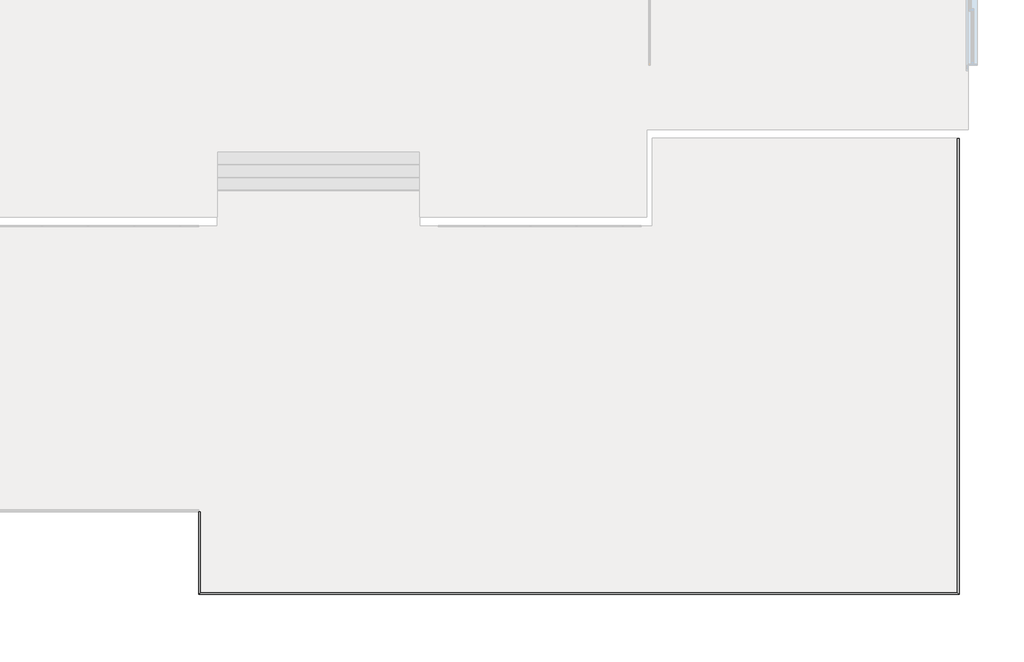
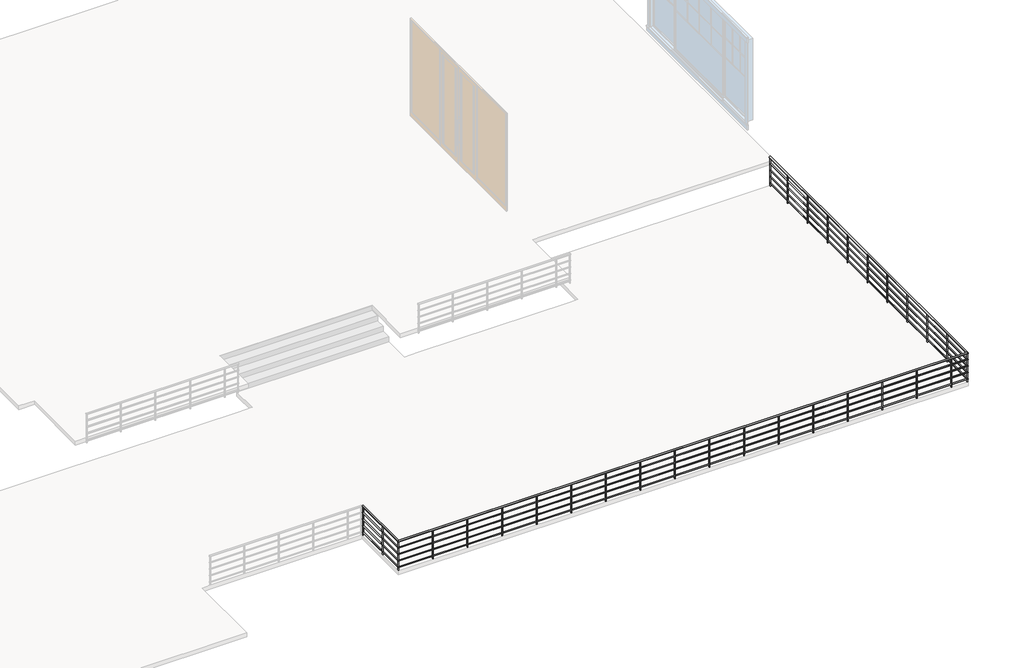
# One storey, part 2 of 5: 1 railing.
"""IFC4 building model written with IfcOpenShell, lengths in millimetres."""

from ifc_helpers import new_model, si_unit, point, frame, frame_2d, origin, origin_with_axes, place, context, project, spatial, circle_curve, ellipse_curve, trimmed, segment, composite_curve, outline, extrude, element, save
from ifc_brep_helpers import plane_surface, cylinder_surface, advanced_brep

model = new_model("IFC4")

# Units and contexts
model_context = context("Model", 3, world=origin())
ifc_project = project(units=[si_unit("LENGTHUNIT", "METRE", prefix="MILLI")], contexts=[model_context])

# Site, building, storey
site = spatial("IfcSite", under=ifc_project)
building = spatial("IfcBuilding", under=site)
storey = spatial("IfcBuildingStorey", under=building, Name="标高 1", Elevation=0.0)

# Railing
placement = place(None, origin())
element("IfcRailing", 1, ObjectType="900mm 圆管", at=placement, inside=storey, context=model_context, shape_type="SolidModel", body=[
    advanced_brep(
    [(1736.7377372, -5655.8341351, 880.0), (1776.7377372, -5655.8341351, 880.0), (1736.7377372, -7455.8341351, 880.0), (1776.7377372, -7415.8341351, 880.0), (18236.7377372, -7455.8341351, 880.0), (18196.7377372, -7415.8341351, 880.0), (18236.7377372, 2444.1658649, 880.0), (18196.7377372, 2444.1658649, 880.0)],
    [
        (0, 1, circle_curve(frame((1756.7377372, -5655.8341351, 880.0), z_axis=(0.0, 1.0, 0.0), x_axis=(1.0, 0.0, 0.0)), 20.0)),
        (1, 0, circle_curve(frame((1756.7377372, -5655.8341351, 880.0), z_axis=(0.0, 1.0, 0.0), x_axis=(1.0, 0.0, 0.0)), 20.0)),
        (0, 2),
        (2, 3, ellipse_curve(frame((1756.7377372, -7435.8341351, 880.0), z_axis=(-0.7071067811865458, 0.7071067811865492, 0.0), x_axis=(0.7071067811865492, 0.7071067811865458, 0.0)), 28.2842712, 20.0)),
        (3, 1),
        (3, 2, ellipse_curve(frame((1756.7377372, -7435.8341351, 880.0), z_axis=(-0.7071067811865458, 0.7071067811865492, 0.0), x_axis=(0.7071067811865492, 0.7071067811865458, 0.0)), 28.2842712, 20.0)),
        (2, 4),
        (4, 5, ellipse_curve(frame((18216.7377372, -7435.8341351, 880.0), z_axis=(-0.7071067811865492, -0.7071067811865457, 0.0), x_axis=(-0.707106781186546, 0.7071067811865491, 0.0)), 28.2842712, 20.0)),
        (5, 3),
        (5, 4, ellipse_curve(frame((18216.7377372, -7435.8341351, 880.0), z_axis=(-0.7071067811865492, -0.7071067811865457, 0.0), x_axis=(-0.707106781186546, 0.7071067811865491, 0.0)), 28.2842712, 20.0)),
        (6, 7, circle_curve(frame((18216.7377372, 2444.1658649, 880.0), z_axis=(0.0, 1.0, 0.0), x_axis=(-1.0, 0.0, 0.0)), 20.0)),
        (7, 6, circle_curve(frame((18216.7377372, 2444.1658649, 880.0), z_axis=(0.0, 1.0, 0.0), x_axis=(-1.0, 0.0, 0.0)), 20.0)),
        (4, 6),
        (7, 5),
    ],
    [
        plane_surface(frame((1756.7377372, -5655.8341351, 900.0), z_axis=(0.0, 1.0, 0.0), x_axis=(0.0, 0.0, -1.0))),
        cylinder_surface(frame((1756.7377372, -5655.8341351, 880.0), z_axis=(0.0, 1.0, 0.0), x_axis=(1.0, 0.0, 0.0)), 20.0),
        cylinder_surface(frame((1756.7377372, -7435.8341351, 880.0), z_axis=(-1.0, 0.0, 0.0), x_axis=(0.0, 1.0, 0.0)), 20.0),
        plane_surface(frame((18216.7377372, 2444.1658649, 900.0), z_axis=(0.0, 1.0, 0.0), x_axis=(0.0, 0.0, 1.0))),
        cylinder_surface(frame((18216.7377372, -7435.8341351, 880.0), z_axis=(0.0, -1.0, 0.0), x_axis=(-1.0, 0.0, 0.0)), 20.0),
    ],
    [
        (0, [[1, 2]]),
        (1, [[-1, 3, 4, 5]]),
        (1, [[-2, -5, 6, -3]]),
        (2, [[-4, 7, 8, 9]]),
        (2, [[-6, -9, 10, -7]]),
        (3, [[11, 12]]),
        (4, [[-8, 13, -12, 14]]),
        (4, [[-10, -14, -11, -13]]),
    ],
),
    advanced_brep(
    [(1771.7377372, -5655.8341351, 685.0), (1741.7377372, -5655.8341351, 685.0), (1771.7377372, -7420.8341351, 685.0), (1741.7377372, -7450.8341351, 685.0), (18201.7377372, -7420.8341351, 685.0), (18231.7377372, -7450.8341351, 685.0), (18201.7377372, 2444.1658649, 685.0), (18231.7377372, 2444.1658649, 685.0)],
    [
        (0, 1, circle_curve(frame((1756.7377372, -5655.8341351, 685.0), z_axis=(0.0, 1.0, 0.0), x_axis=(-1.0, 0.0, 0.0)), 15.0)),
        (1, 0, circle_curve(frame((1756.7377372, -5655.8341351, 685.0), z_axis=(0.0, 1.0, 0.0), x_axis=(-1.0, 0.0, 0.0)), 15.0)),
        (0, 2),
        (2, 3, ellipse_curve(frame((1756.7377372, -7435.8341351, 685.0), z_axis=(-0.7071067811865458, 0.7071067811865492, 0.0), x_axis=(0.7071067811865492, 0.7071067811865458, 0.0)), 21.2132034, 15.0)),
        (3, 1),
        (3, 2, ellipse_curve(frame((1756.7377372, -7435.8341351, 685.0), z_axis=(-0.7071067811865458, 0.7071067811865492, 0.0), x_axis=(0.7071067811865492, 0.7071067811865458, 0.0)), 21.2132034, 15.0)),
        (2, 4),
        (4, 5, ellipse_curve(frame((18216.7377372, -7435.8341351, 685.0), z_axis=(-0.7071067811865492, -0.7071067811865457, 0.0), x_axis=(-0.707106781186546, 0.7071067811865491, 0.0)), 21.2132034, 15.0)),
        (5, 3),
        (5, 4, ellipse_curve(frame((18216.7377372, -7435.8341351, 685.0), z_axis=(-0.7071067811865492, -0.7071067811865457, 0.0), x_axis=(-0.707106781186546, 0.7071067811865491, 0.0)), 21.2132034, 15.0)),
        (6, 7, circle_curve(frame((18216.7377372, 2444.1658649, 685.0), z_axis=(0.0, 1.0, 0.0), x_axis=(1.0, 0.0, 0.0)), 15.0)),
        (7, 6, circle_curve(frame((18216.7377372, 2444.1658649, 685.0), z_axis=(0.0, 1.0, 0.0), x_axis=(1.0, 0.0, 0.0)), 15.0)),
        (4, 6),
        (7, 5),
    ],
    [
        plane_surface(frame((1756.7377372, -5655.8341351, 700.0), z_axis=(0.0, 1.0, 0.0), x_axis=(0.0, 0.0, -1.0))),
        cylinder_surface(frame((1756.7377372, -5655.8341351, 685.0), z_axis=(0.0, 1.0, 0.0), x_axis=(-1.0, 0.0, 0.0)), 15.0),
        cylinder_surface(frame((1756.7377372, -7435.8341351, 685.0), z_axis=(-1.0, 0.0, 0.0), x_axis=(0.0, -1.0, 0.0)), 15.0),
        plane_surface(frame((18216.7377372, 2444.1658649, 700.0), z_axis=(0.0, 1.0, 0.0), x_axis=(0.0, 0.0, 1.0))),
        cylinder_surface(frame((18216.7377372, -7435.8341351, 685.0), z_axis=(0.0, -1.0, 0.0), x_axis=(1.0, 0.0, 0.0)), 15.0),
    ],
    [
        (0, [[1, 2]]),
        (1, [[-1, 3, 4, 5]]),
        (1, [[-2, -5, 6, -3]]),
        (2, [[-4, 7, 8, 9]]),
        (2, [[-6, -9, 10, -7]]),
        (3, [[11, 12]]),
        (4, [[-8, 13, -12, 14]]),
        (4, [[-10, -14, -11, -13]]),
    ],
),
    advanced_brep(
    [(1771.7377372, -5655.8341351, 485.0), (1741.7377372, -5655.8341351, 485.0), (1771.7377372, -7420.8341351, 485.0), (1741.7377372, -7450.8341351, 485.0), (18201.7377372, -7420.8341351, 485.0), (18231.7377372, -7450.8341351, 485.0), (18201.7377372, 2444.1658649, 485.0), (18231.7377372, 2444.1658649, 485.0)],
    [
        (0, 1, circle_curve(frame((1756.7377372, -5655.8341351, 485.0), z_axis=(0.0, 1.0, 0.0), x_axis=(-1.0, 0.0, 0.0)), 15.0)),
        (1, 0, circle_curve(frame((1756.7377372, -5655.8341351, 485.0), z_axis=(0.0, 1.0, 0.0), x_axis=(-1.0, 0.0, 0.0)), 15.0)),
        (0, 2),
        (2, 3, ellipse_curve(frame((1756.7377372, -7435.8341351, 485.0), z_axis=(-0.7071067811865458, 0.7071067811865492, 0.0), x_axis=(0.7071067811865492, 0.7071067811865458, 0.0)), 21.2132034, 15.0)),
        (3, 1),
        (3, 2, ellipse_curve(frame((1756.7377372, -7435.8341351, 485.0), z_axis=(-0.7071067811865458, 0.7071067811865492, 0.0), x_axis=(0.7071067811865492, 0.7071067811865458, 0.0)), 21.2132034, 15.0)),
        (2, 4),
        (4, 5, ellipse_curve(frame((18216.7377372, -7435.8341351, 485.0), z_axis=(-0.7071067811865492, -0.7071067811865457, 0.0), x_axis=(-0.707106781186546, 0.7071067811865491, 0.0)), 21.2132034, 15.0)),
        (5, 3),
        (5, 4, ellipse_curve(frame((18216.7377372, -7435.8341351, 485.0), z_axis=(-0.7071067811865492, -0.7071067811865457, 0.0), x_axis=(-0.707106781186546, 0.7071067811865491, 0.0)), 21.2132034, 15.0)),
        (6, 7, circle_curve(frame((18216.7377372, 2444.1658649, 485.0), z_axis=(0.0, 1.0, 0.0), x_axis=(1.0, 0.0, 0.0)), 15.0)),
        (7, 6, circle_curve(frame((18216.7377372, 2444.1658649, 485.0), z_axis=(0.0, 1.0, 0.0), x_axis=(1.0, 0.0, 0.0)), 15.0)),
        (4, 6),
        (7, 5),
    ],
    [
        plane_surface(frame((1756.7377372, -5655.8341351, 500.0), z_axis=(0.0, 1.0, 0.0), x_axis=(0.0, 0.0, -1.0))),
        cylinder_surface(frame((1756.7377372, -5655.8341351, 485.0), z_axis=(0.0, 1.0, 0.0), x_axis=(-1.0, 0.0, 0.0)), 15.0),
        cylinder_surface(frame((1756.7377372, -7435.8341351, 485.0), z_axis=(-1.0, 0.0, 0.0), x_axis=(0.0, -1.0, 0.0)), 15.0),
        plane_surface(frame((18216.7377372, 2444.1658649, 500.0), z_axis=(0.0, 1.0, 0.0), x_axis=(0.0, 0.0, 1.0))),
        cylinder_surface(frame((18216.7377372, -7435.8341351, 485.0), z_axis=(0.0, -1.0, 0.0), x_axis=(1.0, 0.0, 0.0)), 15.0),
    ],
    [
        (0, [[1, 2]]),
        (1, [[-1, 3, 4, 5]]),
        (1, [[-2, -5, 6, -3]]),
        (2, [[-4, 7, 8, 9]]),
        (2, [[-6, -9, 10, -7]]),
        (3, [[11, 12]]),
        (4, [[-8, 13, -12, 14]]),
        (4, [[-10, -14, -11, -13]]),
    ],
),
    advanced_brep(
    [(1771.7377372, -5655.8341351, 285.0), (1741.7377372, -5655.8341351, 285.0), (1771.7377372, -7420.8341351, 285.0), (1741.7377372, -7450.8341351, 285.0), (18201.7377372, -7420.8341351, 285.0), (18231.7377372, -7450.8341351, 285.0), (18201.7377372, 2444.1658649, 285.0), (18231.7377372, 2444.1658649, 285.0)],
    [
        (0, 1, circle_curve(frame((1756.7377372, -5655.8341351, 285.0), z_axis=(0.0, 1.0, 0.0), x_axis=(-1.0, 0.0, 0.0)), 15.0)),
        (1, 0, circle_curve(frame((1756.7377372, -5655.8341351, 285.0), z_axis=(0.0, 1.0, 0.0), x_axis=(-1.0, 0.0, 0.0)), 15.0)),
        (0, 2),
        (2, 3, ellipse_curve(frame((1756.7377372, -7435.8341351, 285.0), z_axis=(-0.7071067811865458, 0.7071067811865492, 0.0), x_axis=(0.7071067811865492, 0.7071067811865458, 0.0)), 21.2132034, 15.0)),
        (3, 1),
        (3, 2, ellipse_curve(frame((1756.7377372, -7435.8341351, 285.0), z_axis=(-0.7071067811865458, 0.7071067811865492, 0.0), x_axis=(0.7071067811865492, 0.7071067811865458, 0.0)), 21.2132034, 15.0)),
        (2, 4),
        (4, 5, ellipse_curve(frame((18216.7377372, -7435.8341351, 285.0), z_axis=(-0.7071067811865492, -0.7071067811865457, 0.0), x_axis=(-0.707106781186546, 0.7071067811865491, 0.0)), 21.2132034, 15.0)),
        (5, 3),
        (5, 4, ellipse_curve(frame((18216.7377372, -7435.8341351, 285.0), z_axis=(-0.7071067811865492, -0.7071067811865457, 0.0), x_axis=(-0.707106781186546, 0.7071067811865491, 0.0)), 21.2132034, 15.0)),
        (6, 7, circle_curve(frame((18216.7377372, 2444.1658649, 285.0), z_axis=(0.0, 1.0, 0.0), x_axis=(1.0, 0.0, 0.0)), 15.0)),
        (7, 6, circle_curve(frame((18216.7377372, 2444.1658649, 285.0), z_axis=(0.0, 1.0, 0.0), x_axis=(1.0, 0.0, 0.0)), 15.0)),
        (4, 6),
        (7, 5),
    ],
    [
        plane_surface(frame((1756.7377372, -5655.8341351, 300.0), z_axis=(0.0, 1.0, 0.0), x_axis=(0.0, 0.0, -1.0))),
        cylinder_surface(frame((1756.7377372, -5655.8341351, 285.0), z_axis=(0.0, 1.0, 0.0), x_axis=(-1.0, 0.0, 0.0)), 15.0),
        cylinder_surface(frame((1756.7377372, -7435.8341351, 285.0), z_axis=(-1.0, 0.0, 0.0), x_axis=(0.0, -1.0, 0.0)), 15.0),
        plane_surface(frame((18216.7377372, 2444.1658649, 300.0), z_axis=(0.0, 1.0, 0.0), x_axis=(0.0, 0.0, 1.0))),
        cylinder_surface(frame((18216.7377372, -7435.8341351, 285.0), z_axis=(0.0, -1.0, 0.0), x_axis=(1.0, 0.0, 0.0)), 15.0),
    ],
    [
        (0, [[1, 2]]),
        (1, [[-1, 3, 4, 5]]),
        (1, [[-2, -5, 6, -3]]),
        (2, [[-4, 7, 8, 9]]),
        (2, [[-6, -9, 10, -7]]),
        (3, [[11, 12]]),
        (4, [[-8, 13, -12, 14]]),
        (4, [[-10, -14, -11, -13]]),
    ],
),
    advanced_brep(
    [(1771.7377372, -5655.8341351, 85.0), (1741.7377372, -5655.8341351, 85.0), (1771.7377372, -7420.8341351, 85.0), (1741.7377372, -7450.8341351, 85.0), (18201.7377372, -7420.8341351, 85.0), (18231.7377372, -7450.8341351, 85.0), (18201.7377372, 2444.1658649, 85.0), (18231.7377372, 2444.1658649, 85.0)],
    [
        (0, 1, circle_curve(frame((1756.7377372, -5655.8341351, 85.0), z_axis=(0.0, 1.0, 0.0), x_axis=(-1.0, 0.0, 0.0)), 15.0)),
        (1, 0, circle_curve(frame((1756.7377372, -5655.8341351, 85.0), z_axis=(0.0, 1.0, 0.0), x_axis=(-1.0, 0.0, 0.0)), 15.0)),
        (0, 2),
        (2, 3, ellipse_curve(frame((1756.7377372, -7435.8341351, 85.0), z_axis=(-0.7071067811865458, 0.7071067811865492, 0.0), x_axis=(0.7071067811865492, 0.7071067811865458, 0.0)), 21.2132034, 15.0)),
        (3, 1),
        (3, 2, ellipse_curve(frame((1756.7377372, -7435.8341351, 85.0), z_axis=(-0.7071067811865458, 0.7071067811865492, 0.0), x_axis=(0.7071067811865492, 0.7071067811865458, 0.0)), 21.2132034, 15.0)),
        (2, 4),
        (4, 5, ellipse_curve(frame((18216.7377372, -7435.8341351, 85.0), z_axis=(-0.7071067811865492, -0.7071067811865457, 0.0), x_axis=(-0.707106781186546, 0.7071067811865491, 0.0)), 21.2132034, 15.0)),
        (5, 3),
        (5, 4, ellipse_curve(frame((18216.7377372, -7435.8341351, 85.0), z_axis=(-0.7071067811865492, -0.7071067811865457, 0.0), x_axis=(-0.707106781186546, 0.7071067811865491, 0.0)), 21.2132034, 15.0)),
        (6, 7, circle_curve(frame((18216.7377372, 2444.1658649, 85.0), z_axis=(0.0, 1.0, 0.0), x_axis=(1.0, 0.0, 0.0)), 15.0)),
        (7, 6, circle_curve(frame((18216.7377372, 2444.1658649, 85.0), z_axis=(0.0, 1.0, 0.0), x_axis=(1.0, 0.0, 0.0)), 15.0)),
        (4, 6),
        (7, 5),
    ],
    [
        plane_surface(frame((1756.7377372, -5655.8341351, 100.0), z_axis=(0.0, 1.0, 0.0), x_axis=(0.0, 0.0, -1.0))),
        cylinder_surface(frame((1756.7377372, -5655.8341351, 85.0), z_axis=(0.0, 1.0, 0.0), x_axis=(-1.0, 0.0, 0.0)), 15.0),
        cylinder_surface(frame((1756.7377372, -7435.8341351, 85.0), z_axis=(-1.0, 0.0, 0.0), x_axis=(0.0, -1.0, 0.0)), 15.0),
        plane_surface(frame((18216.7377372, 2444.1658649, 100.0), z_axis=(0.0, 1.0, 0.0), x_axis=(0.0, 0.0, 1.0))),
        cylinder_surface(frame((18216.7377372, -7435.8341351, 85.0), z_axis=(0.0, -1.0, 0.0), x_axis=(1.0, 0.0, 0.0)), 15.0),
    ],
    [
        (0, [[1, 2]]),
        (1, [[-1, 3, 4, 5]]),
        (1, [[-2, -5, 6, -3]]),
        (2, [[-4, 7, 8, 9]]),
        (2, [[-6, -9, 10, -7]]),
        (3, [[11, 12]]),
        (4, [[-8, 13, -12, 14]]),
        (4, [[-10, -14, -11, -13]]),
    ],
),
    extrude(outline(composite_curve([segment(trimmed(circle_curve(frame_2d((18216.7377372, 1564.1658649)), 12.5), [point((18204.2377372, 1564.1658649))], [point((18229.2377372, 1564.1658649))], False, "CARTESIAN"), True, "CONTINUOUS"), segment(trimmed(circle_curve(frame_2d((18216.7377372, 1564.1658649)), 12.5), [point((18229.2377372, 1564.1658649))], [point((18204.2377372, 1564.1658649))], False, "CARTESIAN"), True, "CONTINUOUS")], self_intersect=False)), origin_with_axes(), (0.0, 0.0, 1.0), 860.0),
    extrude(outline(composite_curve([segment(trimmed(circle_curve(frame_2d((18216.7377372, 564.1658649)), 12.5), [point((18204.2377372, 564.1658649))], [point((18229.2377372, 564.1658649))], False, "CARTESIAN"), True, "CONTINUOUS"), segment(trimmed(circle_curve(frame_2d((18216.7377372, 564.1658649)), 12.5), [point((18229.2377372, 564.1658649))], [point((18204.2377372, 564.1658649))], False, "CARTESIAN"), True, "CONTINUOUS")], self_intersect=False)), origin_with_axes(), (0.0, 0.0, 1.0), 860.0),
    extrude(outline(composite_curve([segment(trimmed(circle_curve(frame_2d((18216.7377372, -435.8341351)), 12.5), [point((18204.2377372, -435.8341351))], [point((18229.2377372, -435.8341351))], False, "CARTESIAN"), True, "CONTINUOUS"), segment(trimmed(circle_curve(frame_2d((18216.7377372, -435.8341351)), 12.5), [point((18229.2377372, -435.8341351))], [point((18204.2377372, -435.8341351))], False, "CARTESIAN"), True, "CONTINUOUS")], self_intersect=False)), origin_with_axes(), (0.0, 0.0, 1.0), 860.0),
    extrude(outline(composite_curve([segment(trimmed(circle_curve(frame_2d((18216.7377372, -1435.8341351)), 12.5), [point((18204.2377372, -1435.8341351))], [point((18229.2377372, -1435.8341351))], False, "CARTESIAN"), True, "CONTINUOUS"), segment(trimmed(circle_curve(frame_2d((18216.7377372, -1435.8341351)), 12.5), [point((18229.2377372, -1435.8341351))], [point((18204.2377372, -1435.8341351))], False, "CARTESIAN"), True, "CONTINUOUS")], self_intersect=False)), origin_with_axes(), (0.0, 0.0, 1.0), 860.0),
    extrude(outline(composite_curve([segment(trimmed(circle_curve(frame_2d((18216.7377372, -2435.8341351)), 12.5), [point((18204.2377372, -2435.8341351))], [point((18229.2377372, -2435.8341351))], False, "CARTESIAN"), True, "CONTINUOUS"), segment(trimmed(circle_curve(frame_2d((18216.7377372, -2435.8341351)), 12.5), [point((18229.2377372, -2435.8341351))], [point((18204.2377372, -2435.8341351))], False, "CARTESIAN"), True, "CONTINUOUS")], self_intersect=False)), origin_with_axes(), (0.0, 0.0, 1.0), 860.0),
    extrude(outline(composite_curve([segment(trimmed(circle_curve(frame_2d((18216.7377372, -3435.8341351)), 12.5), [point((18204.2377372, -3435.8341351))], [point((18229.2377372, -3435.8341351))], False, "CARTESIAN"), True, "CONTINUOUS"), segment(trimmed(circle_curve(frame_2d((18216.7377372, -3435.8341351)), 12.5), [point((18229.2377372, -3435.8341351))], [point((18204.2377372, -3435.8341351))], False, "CARTESIAN"), True, "CONTINUOUS")], self_intersect=False)), origin_with_axes(), (0.0, 0.0, 1.0), 860.0),
    extrude(outline(composite_curve([segment(trimmed(circle_curve(frame_2d((18216.7377372, -4435.8341351)), 12.5), [point((18204.2377372, -4435.8341351))], [point((18229.2377372, -4435.8341351))], False, "CARTESIAN"), True, "CONTINUOUS"), segment(trimmed(circle_curve(frame_2d((18216.7377372, -4435.8341351)), 12.5), [point((18229.2377372, -4435.8341351))], [point((18204.2377372, -4435.8341351))], False, "CARTESIAN"), True, "CONTINUOUS")], self_intersect=False)), origin_with_axes(), (0.0, 0.0, 1.0), 860.0),
    extrude(outline(composite_curve([segment(trimmed(circle_curve(frame_2d((18216.7377372, -5435.8341351)), 12.5), [point((18204.2377372, -5435.8341351))], [point((18229.2377372, -5435.8341351))], False, "CARTESIAN"), True, "CONTINUOUS"), segment(trimmed(circle_curve(frame_2d((18216.7377372, -5435.8341351)), 12.5), [point((18229.2377372, -5435.8341351))], [point((18204.2377372, -5435.8341351))], False, "CARTESIAN"), True, "CONTINUOUS")], self_intersect=False)), origin_with_axes(), (0.0, 0.0, 1.0), 860.0),
    extrude(outline(composite_curve([segment(trimmed(circle_curve(frame_2d((18216.7377372, -6435.8341351)), 12.5), [point((18204.2377372, -6435.8341351))], [point((18229.2377372, -6435.8341351))], False, "CARTESIAN"), True, "CONTINUOUS"), segment(trimmed(circle_curve(frame_2d((18216.7377372, -6435.8341351)), 12.5), [point((18229.2377372, -6435.8341351))], [point((18204.2377372, -6435.8341351))], False, "CARTESIAN"), True, "CONTINUOUS")], self_intersect=False)), origin_with_axes(), (0.0, 0.0, 1.0), 860.0),
    extrude(outline(composite_curve([segment(trimmed(circle_curve(frame_2d((17756.7377372, -7435.8341351)), 12.5), [point((17756.7377372, -7423.3341351))], [point((17756.7377372, -7448.3341351))], False, "CARTESIAN"), True, "CONTINUOUS"), segment(trimmed(circle_curve(frame_2d((17756.7377372, -7435.8341351)), 12.5), [point((17756.7377372, -7448.3341351))], [point((17756.7377372, -7423.3341351))], False, "CARTESIAN"), True, "CONTINUOUS")], self_intersect=False)), origin_with_axes(), (0.0, 0.0, 1.0), 860.0),
    extrude(outline(composite_curve([segment(trimmed(circle_curve(frame_2d((16756.7377372, -7435.8341351)), 12.5), [point((16756.7377372, -7423.3341351))], [point((16756.7377372, -7448.3341351))], False, "CARTESIAN"), True, "CONTINUOUS"), segment(trimmed(circle_curve(frame_2d((16756.7377372, -7435.8341351)), 12.5), [point((16756.7377372, -7448.3341351))], [point((16756.7377372, -7423.3341351))], False, "CARTESIAN"), True, "CONTINUOUS")], self_intersect=False)), origin_with_axes(), (0.0, 0.0, 1.0), 860.0),
    extrude(outline(composite_curve([segment(trimmed(circle_curve(frame_2d((15756.7377372, -7435.8341351)), 12.5), [point((15756.7377372, -7423.3341351))], [point((15756.7377372, -7448.3341351))], False, "CARTESIAN"), True, "CONTINUOUS"), segment(trimmed(circle_curve(frame_2d((15756.7377372, -7435.8341351)), 12.5), [point((15756.7377372, -7448.3341351))], [point((15756.7377372, -7423.3341351))], False, "CARTESIAN"), True, "CONTINUOUS")], self_intersect=False)), origin_with_axes(), (0.0, 0.0, 1.0), 860.0),
    extrude(outline(composite_curve([segment(trimmed(circle_curve(frame_2d((14756.7377372, -7435.8341351)), 12.5), [point((14756.7377372, -7423.3341351))], [point((14756.7377372, -7448.3341351))], False, "CARTESIAN"), True, "CONTINUOUS"), segment(trimmed(circle_curve(frame_2d((14756.7377372, -7435.8341351)), 12.5), [point((14756.7377372, -7448.3341351))], [point((14756.7377372, -7423.3341351))], False, "CARTESIAN"), True, "CONTINUOUS")], self_intersect=False)), origin_with_axes(), (0.0, 0.0, 1.0), 860.0),
    extrude(outline(composite_curve([segment(trimmed(circle_curve(frame_2d((13756.7377372, -7435.8341351)), 12.5), [point((13756.7377372, -7423.3341351))], [point((13756.7377372, -7448.3341351))], False, "CARTESIAN"), True, "CONTINUOUS"), segment(trimmed(circle_curve(frame_2d((13756.7377372, -7435.8341351)), 12.5), [point((13756.7377372, -7448.3341351))], [point((13756.7377372, -7423.3341351))], False, "CARTESIAN"), True, "CONTINUOUS")], self_intersect=False)), origin_with_axes(), (0.0, 0.0, 1.0), 860.0),
    extrude(outline(composite_curve([segment(trimmed(circle_curve(frame_2d((12756.7377372, -7435.8341351)), 12.5), [point((12756.7377372, -7423.3341351))], [point((12756.7377372, -7448.3341351))], False, "CARTESIAN"), True, "CONTINUOUS"), segment(trimmed(circle_curve(frame_2d((12756.7377372, -7435.8341351)), 12.5), [point((12756.7377372, -7448.3341351))], [point((12756.7377372, -7423.3341351))], False, "CARTESIAN"), True, "CONTINUOUS")], self_intersect=False)), origin_with_axes(), (0.0, 0.0, 1.0), 860.0),
    extrude(outline(composite_curve([segment(trimmed(circle_curve(frame_2d((11756.7377372, -7435.8341351)), 12.5), [point((11756.7377372, -7423.3341351))], [point((11756.7377372, -7448.3341351))], False, "CARTESIAN"), True, "CONTINUOUS"), segment(trimmed(circle_curve(frame_2d((11756.7377372, -7435.8341351)), 12.5), [point((11756.7377372, -7448.3341351))], [point((11756.7377372, -7423.3341351))], False, "CARTESIAN"), True, "CONTINUOUS")], self_intersect=False)), origin_with_axes(), (0.0, 0.0, 1.0), 860.0),
    extrude(outline(composite_curve([segment(trimmed(circle_curve(frame_2d((10756.7377372, -7435.8341351)), 12.5), [point((10756.7377372, -7423.3341351))], [point((10756.7377372, -7448.3341351))], False, "CARTESIAN"), True, "CONTINUOUS"), segment(trimmed(circle_curve(frame_2d((10756.7377372, -7435.8341351)), 12.5), [point((10756.7377372, -7448.3341351))], [point((10756.7377372, -7423.3341351))], False, "CARTESIAN"), True, "CONTINUOUS")], self_intersect=False)), origin_with_axes(), (0.0, 0.0, 1.0), 860.0),
    extrude(outline(composite_curve([segment(trimmed(circle_curve(frame_2d((9756.7377372, -7435.8341351)), 12.5), [point((9756.7377372, -7423.3341351))], [point((9756.7377372, -7448.3341351))], False, "CARTESIAN"), True, "CONTINUOUS"), segment(trimmed(circle_curve(frame_2d((9756.7377372, -7435.8341351)), 12.5), [point((9756.7377372, -7448.3341351))], [point((9756.7377372, -7423.3341351))], False, "CARTESIAN"), True, "CONTINUOUS")], self_intersect=False)), origin_with_axes(), (0.0, 0.0, 1.0), 860.0),
    extrude(outline(composite_curve([segment(trimmed(circle_curve(frame_2d((8756.7377372, -7435.8341351)), 12.5), [point((8756.7377372, -7423.3341351))], [point((8756.7377372, -7448.3341351))], False, "CARTESIAN"), True, "CONTINUOUS"), segment(trimmed(circle_curve(frame_2d((8756.7377372, -7435.8341351)), 12.5), [point((8756.7377372, -7448.3341351))], [point((8756.7377372, -7423.3341351))], False, "CARTESIAN"), True, "CONTINUOUS")], self_intersect=False)), origin_with_axes(), (0.0, 0.0, 1.0), 860.0),
    extrude(outline(composite_curve([segment(trimmed(circle_curve(frame_2d((7756.7377372, -7435.8341351)), 12.5), [point((7756.7377372, -7423.3341351))], [point((7756.7377372, -7448.3341351))], False, "CARTESIAN"), True, "CONTINUOUS"), segment(trimmed(circle_curve(frame_2d((7756.7377372, -7435.8341351)), 12.5), [point((7756.7377372, -7448.3341351))], [point((7756.7377372, -7423.3341351))], False, "CARTESIAN"), True, "CONTINUOUS")], self_intersect=False)), origin_with_axes(), (0.0, 0.0, 1.0), 860.0),
    extrude(outline(composite_curve([segment(trimmed(circle_curve(frame_2d((6756.7377372, -7435.8341351)), 12.5), [point((6756.7377372, -7423.3341351))], [point((6756.7377372, -7448.3341351))], False, "CARTESIAN"), True, "CONTINUOUS"), segment(trimmed(circle_curve(frame_2d((6756.7377372, -7435.8341351)), 12.5), [point((6756.7377372, -7448.3341351))], [point((6756.7377372, -7423.3341351))], False, "CARTESIAN"), True, "CONTINUOUS")], self_intersect=False)), origin_with_axes(), (0.0, 0.0, 1.0), 860.0),
    extrude(outline(composite_curve([segment(trimmed(circle_curve(frame_2d((5756.7377372, -7435.8341351)), 12.5), [point((5756.7377372, -7423.3341351))], [point((5756.7377372, -7448.3341351))], False, "CARTESIAN"), True, "CONTINUOUS"), segment(trimmed(circle_curve(frame_2d((5756.7377372, -7435.8341351)), 12.5), [point((5756.7377372, -7448.3341351))], [point((5756.7377372, -7423.3341351))], False, "CARTESIAN"), True, "CONTINUOUS")], self_intersect=False)), origin_with_axes(), (0.0, 0.0, 1.0), 860.0),
    extrude(outline(composite_curve([segment(trimmed(circle_curve(frame_2d((4756.7377372, -7435.8341351)), 12.5), [point((4756.7377372, -7423.3341351))], [point((4756.7377372, -7448.3341351))], False, "CARTESIAN"), True, "CONTINUOUS"), segment(trimmed(circle_curve(frame_2d((4756.7377372, -7435.8341351)), 12.5), [point((4756.7377372, -7448.3341351))], [point((4756.7377372, -7423.3341351))], False, "CARTESIAN"), True, "CONTINUOUS")], self_intersect=False)), origin_with_axes(), (0.0, 0.0, 1.0), 860.0),
    extrude(outline(composite_curve([segment(trimmed(circle_curve(frame_2d((3756.7377372, -7435.8341351)), 12.5), [point((3756.7377372, -7423.3341351))], [point((3756.7377372, -7448.3341351))], False, "CARTESIAN"), True, "CONTINUOUS"), segment(trimmed(circle_curve(frame_2d((3756.7377372, -7435.8341351)), 12.5), [point((3756.7377372, -7448.3341351))], [point((3756.7377372, -7423.3341351))], False, "CARTESIAN"), True, "CONTINUOUS")], self_intersect=False)), origin_with_axes(), (0.0, 0.0, 1.0), 860.0),
    extrude(outline(composite_curve([segment(trimmed(circle_curve(frame_2d((2756.7377372, -7435.8341351)), 12.5), [point((2756.7377372, -7423.3341351))], [point((2756.7377372, -7448.3341351))], False, "CARTESIAN"), True, "CONTINUOUS"), segment(trimmed(circle_curve(frame_2d((2756.7377372, -7435.8341351)), 12.5), [point((2756.7377372, -7448.3341351))], [point((2756.7377372, -7423.3341351))], False, "CARTESIAN"), True, "CONTINUOUS")], self_intersect=False)), origin_with_axes(), (0.0, 0.0, 1.0), 860.0),
    extrude(outline(composite_curve([segment(trimmed(circle_curve(frame_2d((1756.7377372, -6655.8341351)), 12.5), [point((1769.2377372, -6655.8341351))], [point((1744.2377372, -6655.8341351))], False, "CARTESIAN"), True, "CONTINUOUS"), segment(trimmed(circle_curve(frame_2d((1756.7377372, -6655.8341351)), 12.5), [point((1744.2377372, -6655.8341351))], [point((1769.2377372, -6655.8341351))], False, "CARTESIAN"), True, "CONTINUOUS")], self_intersect=False)), origin_with_axes(), (0.0, 0.0, 1.0), 860.0),
    extrude(outline(composite_curve([segment(trimmed(circle_curve(frame_2d((18216.7377372, -7435.8341351)), 12.5), [point((18216.7377372, -7423.3341351))], [point((18216.7377372, -7448.3341351))], False, "CARTESIAN"), True, "CONTINUOUS"), segment(trimmed(circle_curve(frame_2d((18216.7377372, -7435.8341351)), 12.5), [point((18216.7377372, -7448.3341351))], [point((18216.7377372, -7423.3341351))], False, "CARTESIAN"), True, "CONTINUOUS")], self_intersect=False)), origin_with_axes(), (0.0, 0.0, 1.0), 860.0),
    extrude(outline(composite_curve([segment(trimmed(circle_curve(frame_2d((1756.7377372, -7435.8341351)), 12.5), [point((1769.2377372, -7435.8341351))], [point((1744.2377372, -7435.8341351))], False, "CARTESIAN"), True, "CONTINUOUS"), segment(trimmed(circle_curve(frame_2d((1756.7377372, -7435.8341351)), 12.5), [point((1744.2377372, -7435.8341351))], [point((1769.2377372, -7435.8341351))], False, "CARTESIAN"), True, "CONTINUOUS")], self_intersect=False)), origin_with_axes(), (0.0, 0.0, 1.0), 860.0),
    extrude(outline(composite_curve([segment(trimmed(circle_curve(frame_2d((18216.7377372, 2431.6658649)), 12.5), [point((18204.2377372, 2431.6658649))], [point((18229.2377372, 2431.6658649))], False, "CARTESIAN"), True, "CONTINUOUS"), segment(trimmed(circle_curve(frame_2d((18216.7377372, 2431.6658649)), 12.5), [point((18229.2377372, 2431.6658649))], [point((18204.2377372, 2431.6658649))], False, "CARTESIAN"), True, "CONTINUOUS")], self_intersect=False)), origin_with_axes(), (0.0, 0.0, 1.0), 860.0),
    extrude(outline(composite_curve([segment(trimmed(circle_curve(frame_2d((1756.7377372, -5668.3341351)), 12.5), [point((1769.2377372, -5668.3341351))], [point((1744.2377372, -5668.3341351))], False, "CARTESIAN"), True, "CONTINUOUS"), segment(trimmed(circle_curve(frame_2d((1756.7377372, -5668.3341351)), 12.5), [point((1744.2377372, -5668.3341351))], [point((1769.2377372, -5668.3341351))], False, "CARTESIAN"), True, "CONTINUOUS")], self_intersect=False)), origin_with_axes(), (0.0, 0.0, 1.0), 860.0),
])

save(model, "model.ifc")
